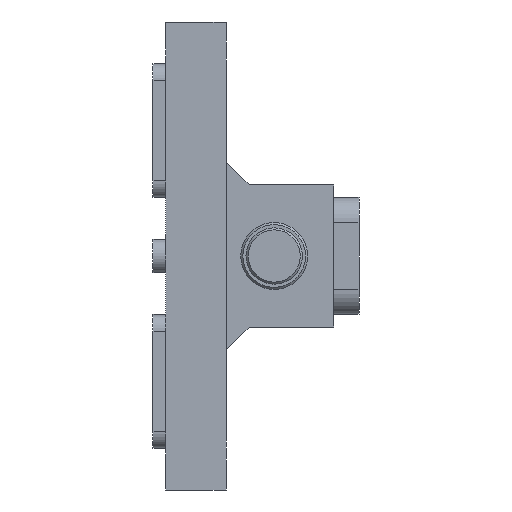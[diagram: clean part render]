
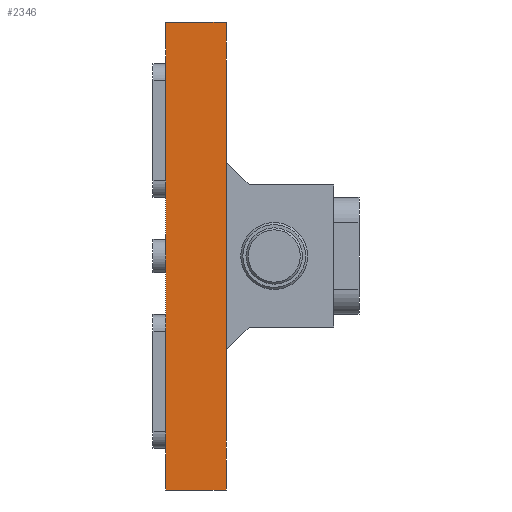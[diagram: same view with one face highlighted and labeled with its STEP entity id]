
A CAD part, left-side view. The second image highlights one B-rep face of the part: STEP entity #2346.
In plain terms, the highlighted planar face has unit normal (-1, 0, 0).
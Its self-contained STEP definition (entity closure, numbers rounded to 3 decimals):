
#27 = DIRECTION ( 'NONE',  ( 1., 0., 0. ) ) ;
#31 = EDGE_CURVE ( 'NONE', #729, #1181, #1522, .T. ) ;
#126 = DIRECTION ( 'NONE',  ( 0., -1., 0. ) ) ;
#224 = ORIENTED_EDGE ( 'NONE', *, *, #2605, .F. ) ;
#235 = ORIENTED_EDGE ( 'NONE', *, *, #2242, .T. ) ;
#266 = VERTEX_POINT ( 'NONE', #417 ) ;
#417 = CARTESIAN_POINT ( 'NONE',  ( -20., 38., 56. ) ) ;
#420 = EDGE_LOOP ( 'NONE', ( #235, #2896, #224, #2002 ) ) ;
#677 = CARTESIAN_POINT ( 'NONE',  ( -20., 38., -56. ) ) ;
#697 = PLANE ( 'NONE',  #1669 ) ;
#729 = VERTEX_POINT ( 'NONE', #1521 ) ;
#745 = CARTESIAN_POINT ( 'NONE',  ( -20., 52.5, 56. ) ) ;
#751 = CARTESIAN_POINT ( 'NONE',  ( -20., 52.5, 56. ) ) ;
#918 = DIRECTION ( 'NONE',  ( 0., 0., -1. ) ) ;
#1051 = VECTOR ( 'NONE', #126, 1000. ) ;
#1111 = LINE ( 'NONE', #2923, #2234 ) ;
#1181 = VERTEX_POINT ( 'NONE', #677 ) ;
#1247 = CARTESIAN_POINT ( 'NONE',  ( -20., 38., 56. ) ) ;
#1521 = CARTESIAN_POINT ( 'NONE',  ( -20., 52.5, -56. ) ) ;
#1522 = LINE ( 'NONE', #2213, #2666 ) ;
#1618 = CARTESIAN_POINT ( 'NONE',  ( -20., 52.5, 56. ) ) ;
#1667 = DIRECTION ( 'NONE',  ( 0., 0., -1. ) ) ;
#1669 = AXIS2_PLACEMENT_3D ( 'NONE', #1618, #27, #2934 ) ;
#1727 = EDGE_CURVE ( 'NONE', #2130, #266, #1883, .T. ) ;
#1883 = LINE ( 'NONE', #745, #1051 ) ;
#2002 = ORIENTED_EDGE ( 'NONE', *, *, #1727, .F. ) ;
#2130 = VERTEX_POINT ( 'NONE', #751 ) ;
#2213 = CARTESIAN_POINT ( 'NONE',  ( -20., 52.5, -56. ) ) ;
#2234 = VECTOR ( 'NONE', #918, 1000. ) ;
#2242 = EDGE_CURVE ( 'NONE', #2130, #729, #1111, .T. ) ;
#2249 = FACE_OUTER_BOUND ( 'NONE', #420, .T. ) ;
#2286 = VECTOR ( 'NONE', #1667, 1000. ) ;
#2346 = ADVANCED_FACE ( 'NONE', ( #2249 ), #697, .F. ) ;
#2605 = EDGE_CURVE ( 'NONE', #266, #1181, #2623, .T. ) ;
#2623 = LINE ( 'NONE', #1247, #2286 ) ;
#2666 = VECTOR ( 'NONE', #2901, 1000. ) ;
#2896 = ORIENTED_EDGE ( 'NONE', *, *, #31, .T. ) ;
#2901 = DIRECTION ( 'NONE',  ( 0., -1., 0. ) ) ;
#2923 = CARTESIAN_POINT ( 'NONE',  ( -20., 52.5, 56. ) ) ;
#2934 = DIRECTION ( 'NONE',  ( 0., 1., 0. ) ) ;
